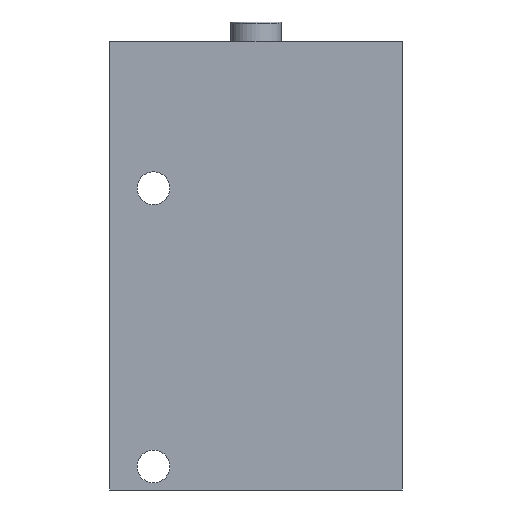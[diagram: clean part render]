
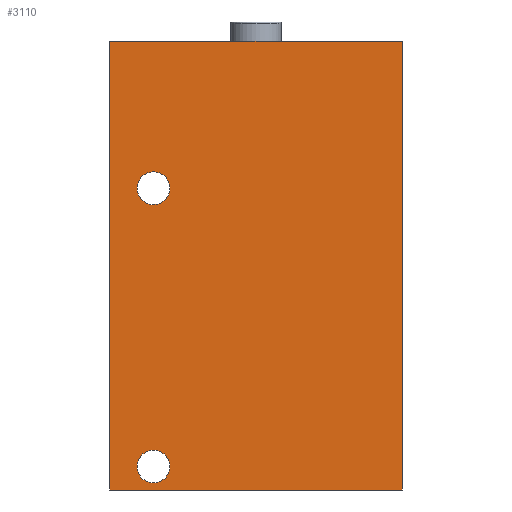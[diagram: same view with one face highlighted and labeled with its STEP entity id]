
A CAD part, front view. The second image highlights one B-rep face of the part: STEP entity #3110.
In plain terms, the highlighted planar face has unit normal (0, -1, 0).
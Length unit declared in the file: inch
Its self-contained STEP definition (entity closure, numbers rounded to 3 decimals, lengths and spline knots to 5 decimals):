
#145=CIRCLE('',#3309,0.14);
#147=CIRCLE('',#3312,0.14);
#299=FACE_BOUND('',#837,.T.);
#300=FACE_BOUND('',#838,.T.);
#301=FACE_BOUND('',#839,.T.);
#837=EDGE_LOOP('',(#2593));
#838=EDGE_LOOP('',(#2594));
#839=EDGE_LOOP('',(#2595,#2596,#2597,#2598));
#1140=LINE('',#5224,#1340);
#1142=LINE('',#5452,#1342);
#1146=LINE('',#5526,#1346);
#1148=LINE('',#5537,#1348);
#1340=VECTOR('',#3793,3.828);
#1342=VECTOR('',#3899,3.828);
#1346=VECTOR('',#3947,2.5);
#1348=VECTOR('',#3961,2.5);
#1509=VERTEX_POINT('',#5217);
#1512=VERTEX_POINT('',#5222);
#1544=VERTEX_POINT('',#5449);
#1545=VERTEX_POINT('',#5451);
#1554=VERTEX_POINT('',#5509);
#1556=VERTEX_POINT('',#5514);
#1868=EDGE_CURVE('',#1512,#1509,#1140,.T.);
#1902=EDGE_CURVE('',#1545,#1544,#1142,.T.);
#1912=EDGE_CURVE('',#1554,#1554,#145,.T.);
#1914=EDGE_CURVE('',#1556,#1556,#147,.T.);
#1919=EDGE_CURVE('',#1545,#1512,#1146,.T.);
#1924=EDGE_CURVE('',#1544,#1509,#1148,.T.);
#2593=ORIENTED_EDGE('',*,*,#1912,.T.);
#2594=ORIENTED_EDGE('',*,*,#1914,.T.);
#2595=ORIENTED_EDGE('',*,*,#1924,.T.);
#2596=ORIENTED_EDGE('',*,*,#1868,.F.);
#2597=ORIENTED_EDGE('',*,*,#1919,.F.);
#2598=ORIENTED_EDGE('',*,*,#1902,.T.);
#2796=PLANE('',#3347);
#3110=ADVANCED_FACE('',(#299,#300,#301),#2796,.T.);
#3309=AXIS2_PLACEMENT_3D('',#5510,#3926,#3927);
#3312=AXIS2_PLACEMENT_3D('',#5515,#3932,#3933);
#3347=AXIS2_PLACEMENT_3D('',#5569,#4006,#4007);
#3793=DIRECTION('',(0.,0.,1.));
#3899=DIRECTION('',(0.,0.,1.));
#3926=DIRECTION('center_axis',(0.,1.,0.));
#3927=DIRECTION('ref_axis',(1.,0.,0.));
#3932=DIRECTION('center_axis',(0.,1.,0.));
#3933=DIRECTION('ref_axis',(1.,0.,0.));
#3947=DIRECTION('',(-1.,0.,0.));
#3961=DIRECTION('',(-1.,0.,0.));
#4006=DIRECTION('center_axis',(0.,-1.,0.));
#4007=DIRECTION('ref_axis',(0.,0.,-1.));
#5217=CARTESIAN_POINT('',(-1.25,-0.75,3.828));
#5222=CARTESIAN_POINT('',(-1.25,-0.75,0.));
#5224=CARTESIAN_POINT('',(-1.25,-0.75,0.));
#5449=CARTESIAN_POINT('',(1.25,-0.75,3.828));
#5451=CARTESIAN_POINT('',(1.25,-0.75,0.));
#5452=CARTESIAN_POINT('',(1.25,-0.75,0.));
#5509=CARTESIAN_POINT('',(-0.735,-0.75,2.575));
#5510=CARTESIAN_POINT('Origin',(-0.875,-0.75,2.575));
#5514=CARTESIAN_POINT('',(-0.735,-0.75,0.2));
#5515=CARTESIAN_POINT('Origin',(-0.875,-0.75,0.2));
#5526=CARTESIAN_POINT('',(1.25,-0.75,0.));
#5537=CARTESIAN_POINT('',(1.25,-0.75,3.828));
#5569=CARTESIAN_POINT('Origin',(1.25,-0.75,0.));
